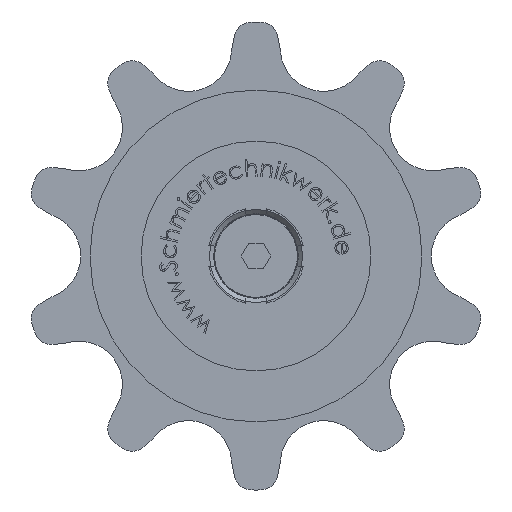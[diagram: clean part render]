
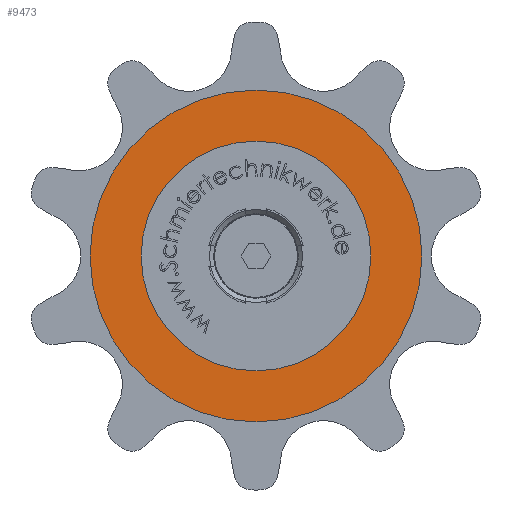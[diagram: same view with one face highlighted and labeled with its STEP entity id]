
A CAD part, front view. The second image highlights one B-rep face of the part: STEP entity #9473.
In plain terms, the highlighted planar face has unit normal (0, -1, 0).
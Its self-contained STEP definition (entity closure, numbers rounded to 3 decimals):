
#144 = EDGE_CURVE ( 'NONE', #20454, #20454, #20574, .T. ) ;
#725 = AXIS2_PLACEMENT_3D ( 'NONE', #19381, #6803, #7032 ) ;
#888 = CARTESIAN_POINT ( 'NONE',  ( 0., -30.2, -8. ) ) ;
#896 = CARTESIAN_POINT ( 'NONE',  ( 0., -30.2, 0. ) ) ;
#3080 = EDGE_CURVE ( 'NONE', #16655, #16655, #19004, .T. ) ;
#4885 = CARTESIAN_POINT ( 'NONE',  ( 0., -30.2, 0. ) ) ;
#6354 = EDGE_LOOP ( 'NONE', ( #19855 ) ) ;
#6803 = DIRECTION ( 'NONE',  ( 0., 1., 0. ) ) ;
#7032 = DIRECTION ( 'NONE',  ( 0., 0., -1. ) ) ;
#7400 = AXIS2_PLACEMENT_3D ( 'NONE', #896, #18419, #14714 ) ;
#7569 = FACE_OUTER_BOUND ( 'NONE', #6354, .T. ) ;
#7981 = DIRECTION ( 'NONE',  ( 0., 0., -1. ) ) ;
#9029 = AXIS2_PLACEMENT_3D ( 'NONE', #4885, #18853, #7981 ) ;
#9473 = ADVANCED_FACE ( 'NONE', ( #7569, #18190 ), #21975, .F. ) ;
#14714 = DIRECTION ( 'NONE',  ( 0., 0., 1. ) ) ;
#14794 = EDGE_LOOP ( 'NONE', ( #18926 ) ) ;
#16655 = VERTEX_POINT ( 'NONE', #888 ) ;
#18190 = FACE_BOUND ( 'NONE', #14794, .T. ) ;
#18419 = DIRECTION ( 'NONE',  ( 0., 1., 0. ) ) ;
#18853 = DIRECTION ( 'NONE',  ( 0., -1., 0. ) ) ;
#18926 = ORIENTED_EDGE ( 'NONE', *, *, #3080, .F. ) ;
#19004 = CIRCLE ( 'NONE', #9029, 8. ) ;
#19381 = CARTESIAN_POINT ( 'NONE',  ( 0., -30.2, 0. ) ) ;
#19855 = ORIENTED_EDGE ( 'NONE', *, *, #144, .F. ) ;
#20454 = VERTEX_POINT ( 'NONE', #22080 ) ;
#20574 = CIRCLE ( 'NONE', #725, 19.5 ) ;
#21975 = PLANE ( 'NONE',  #7400 ) ;
#22080 = CARTESIAN_POINT ( 'NONE',  ( 0., -30.2, -19.5 ) ) ;
